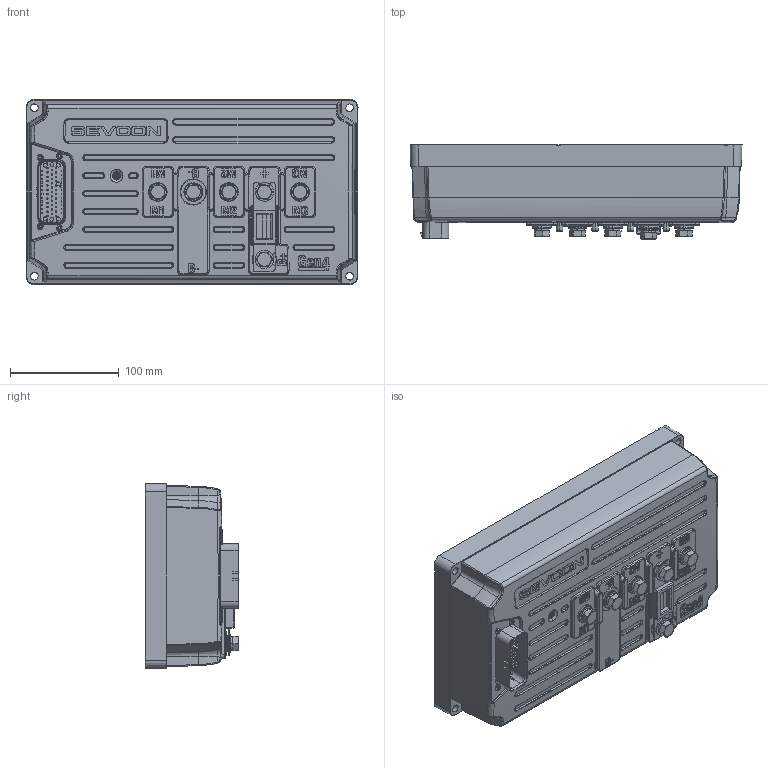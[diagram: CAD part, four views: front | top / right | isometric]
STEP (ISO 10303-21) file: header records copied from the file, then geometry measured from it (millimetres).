
FILE_DESCRIPTION (( 'STEP AP203' ), '1' );
FILE_NAME ('Gen4 SIZE 6 CUSTOMER MODEL.STEP', '2013-04-23T11:11:36', ( '' ), ( '' ), 'SwSTEP 2.0', 'SolidWorks 2010', '' );
FILE_SCHEMA (( 'CONFIG_CONTROL_DESIGN' ));
Length unit declared in the file: millimetre
Products named in the file (1): Gen4 SIZE 6 CUSTOMER MODEL
Bounding box: 305.45 x 86.33 x 170.45 mm (x, y, z)
Surface area: 191980.8 mm2 (no closed solid volume)
Topology: 0 solids, 1673 shells, 1779 faces, 10191 edges, 10081 vertices
Faces by surface type: plane 792, cylinder 422, bspline 321, cone 244
Entity records: 163533 total; most frequent: CARTESIAN_POINT 93595, DIRECTION 11451, ORIENTED_EDGE 10293, EDGE_CURVE 10187, VERTEX_POINT 10081, LINE 5781, VECTOR 5781, B_SPLINE_CURVE_WITH_KNOTS 2849
